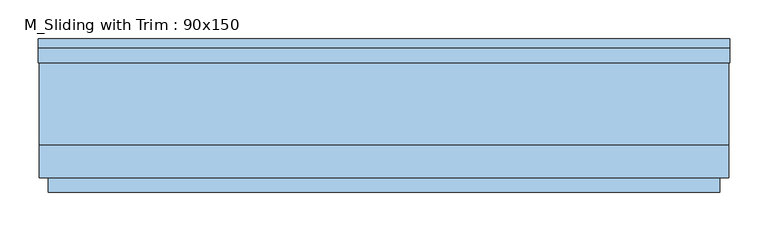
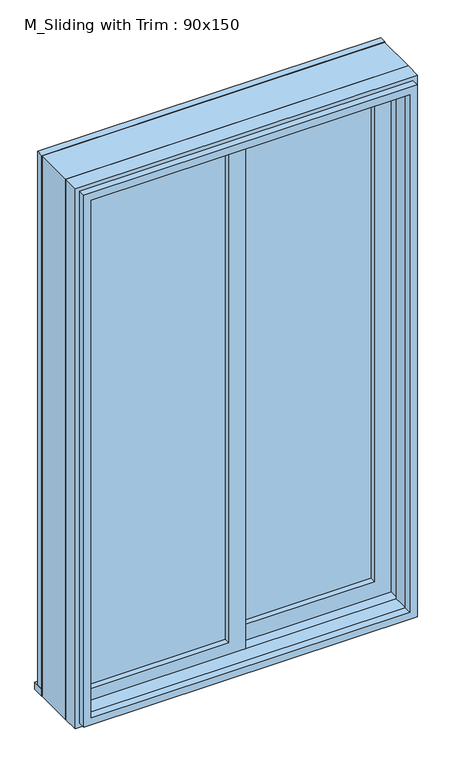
"""IFC4 building model written with IfcOpenShell, lengths in millimetres: window geometry, M_Sliding with Trim : 90x150."""

from ifc_helpers import new_model, si_unit, frame, origin, place, context, project, spatial, polyline, outline, extrude, source, transform, mapped, element, save


def m_sliding_with_trim_90x150_4a0fd2b2(model_context):
    return source(origin(), model_context, "Body", "SweptSolid", [
        extrude(outline(polyline([(-386.5, -4.325), (-22.225, -4.325), (-22.225, -17.025), (-386.5, -17.025), (-386.5, -4.325)])), frame((0.0, 0.0, 978.5), z_axis=(0.0, 0.0, 1.0), x_axis=(1.0, 0.0, 0.0)), (0.0, 0.0, 1.0), 1373.0),
        extrude(outline(polyline([(2395.95, -430.95), (934.05, -430.95), (934.05, 22.225), (2395.95, 22.225), (2395.95, -430.95)]), holes=[polyline([(2351.5, -386.5), (2351.5, -22.225), (978.5, -22.225), (978.5, -386.5), (2351.5, -386.5)])]), frame((0.0, -32.9, 0.0), z_axis=(0.0, 1.0, 0.0), x_axis=(0.0, 0.0, 1.0)), (0.0, 0.0, 1.0), 44.45),
        extrude(outline(polyline([(-450.95, 106.7), (450.95, 106.7), (450.95, 75.0), (-450.95, 75.0), (-450.95, 106.7)])), frame((0.0, 0.0, 915.0), z_axis=(0.0, 0.0, 1.0), x_axis=(1.0, 0.0, 0.0)), (0.0, 0.0, 1.0), 19.05),
        extrude(outline(polyline([(2395.95, -430.95), (2395.95, 430.95), (934.05, 430.95), (934.05, 450.95), (2415.95, 450.95), (2415.95, -450.95), (934.05, -450.95), (934.05, -430.95), (2395.95, -430.95)])), frame((0.0, 75.0, 0.0), z_axis=(0.0, 1.0, 0.0), x_axis=(0.0, 0.0, 1.0)), (0.0, 0.0, 1.0), 19.0),
        extrude(outline(polyline([(2403.25, 438.25), (2403.25, -438.25), (926.75, -438.25), (926.75, 438.25), (2403.25, 438.25)]), holes=[polyline([(2383.25, 418.25), (946.75, 418.25), (946.75, -418.25), (2383.25, -418.25), (2383.25, 418.25)])]), frame((0.0, -94.0, 0.0), z_axis=(0.0, 1.0, 0.0), x_axis=(0.0, 0.0, 1.0)), (0.0, 0.0, 1.0), 19.0),
        extrude(outline(polyline([(386.5, 27.425), (22.225, 27.425), (22.225, 40.125), (386.5, 40.125), (386.5, 27.425)])), frame((0.0, 0.0, 978.5), z_axis=(0.0, 0.0, 1.0), x_axis=(1.0, 0.0, 0.0)), (0.0, 0.0, 1.0), 1373.0),
        extrude(outline(polyline([(2395.95, -22.225), (934.05, -22.225), (934.05, 430.95), (2395.95, 430.95), (2395.95, -22.225)]), holes=[polyline([(2351.5, 22.225), (2351.5, 386.5), (978.5, 386.5), (978.5, 22.225), (2351.5, 22.225)])]), frame((0.0, 11.55, 0.0), z_axis=(0.0, 1.0, 0.0), x_axis=(0.0, 0.0, 1.0)), (0.0, 0.0, 1.0), 44.45),
        extrude(outline(polyline([(2415.0, -450.0), (915.0, -450.0), (915.0, 450.0), (2415.0, 450.0), (2415.0, -450.0)]), holes=[polyline([(2383.25, -418.25), (2383.25, 418.25), (946.75, 418.25), (946.75, -418.25), (2383.25, -418.25)])]), frame((0.0, -75.0, 0.0), z_axis=(0.0, 1.0, 0.0), x_axis=(0.0, 0.0, 1.0)), (0.0, 0.0, 1.0), 42.1),
        extrude(outline(polyline([(2415.0, 450.0), (2415.0, -450.0), (915.0, -450.0), (915.0, 450.0), (2415.0, 450.0)]), holes=[polyline([(2395.95, 430.95), (934.05, 430.95), (934.05, -430.95), (2395.95, -430.95), (2395.95, 430.95)])]), frame((0.0, -32.9, 0.0), z_axis=(0.0, 1.0, 0.0), x_axis=(0.0, 0.0, 1.0)), (0.0, 0.0, 1.0), 107.9),
    ])


if __name__ == "__main__":
    model = new_model("IFC4")
    model_context = context("Model", 3, world=origin())
    ifc_project = project(units=[si_unit("LENGTHUNIT", "METRE", prefix="MILLI")], contexts=[model_context])
    site = spatial("IfcSite", under=ifc_project)
    building = spatial("IfcBuilding", under=site)
    placement = place(None, origin())
    m_sliding_with_trim_90x150_shape = m_sliding_with_trim_90x150_4a0fd2b2(model_context)
    element("IfcWindow", 1, ObjectType="M_Sliding with Trim : 90x150", at=placement, inside=building, context=model_context, shape_type="MappedRepresentation", body=[
        mapped(m_sliding_with_trim_90x150_shape, transform((0.0, 0.0, 0.0), x_axis=(1.0, 0.0, 0.0), y_axis=(0.0, 1.0, 0.0), z_axis=(0.0, 0.0, 1.0))),
    ])
    save(model, "model.ifc")
